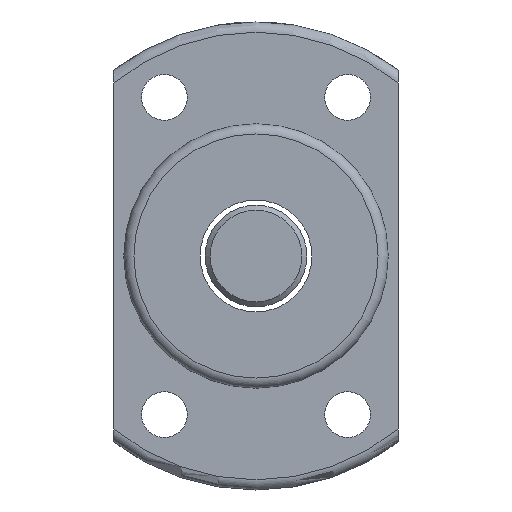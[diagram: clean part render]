
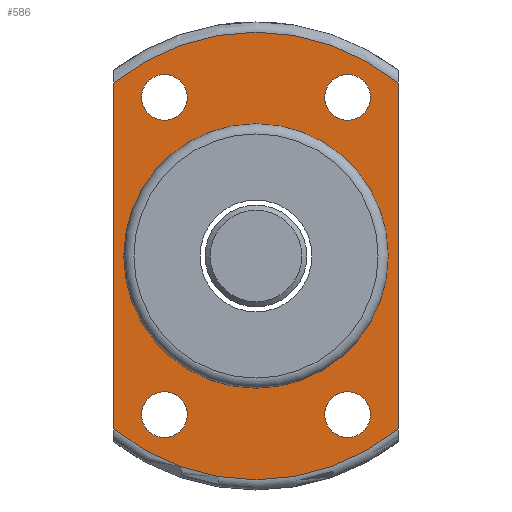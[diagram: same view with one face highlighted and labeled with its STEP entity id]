
A CAD part, left-side view. The second image highlights one B-rep face of the part: STEP entity #586.
In plain terms, the highlighted planar face has unit normal (-1, 0, 0).
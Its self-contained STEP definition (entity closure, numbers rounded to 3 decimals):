
#69=PLANE('',#684);
#93=LINE('',#940,#101);
#95=LINE('',#973,#103);
#101=VECTOR('',#726,1000.);
#103=VECTOR('',#730,1000.);
#188=ORIENTED_EDGE('',*,*,#300,.F.);
#189=ORIENTED_EDGE('',*,*,#259,.T.);
#190=ORIENTED_EDGE('',*,*,#301,.F.);
#191=ORIENTED_EDGE('',*,*,#266,.F.);
#192=ORIENTED_EDGE('',*,*,#273,.T.);
#193=ORIENTED_EDGE('',*,*,#278,.T.);
#194=ORIENTED_EDGE('',*,*,#283,.T.);
#195=ORIENTED_EDGE('',*,*,#288,.T.);
#196=ORIENTED_EDGE('',*,*,#292,.T.);
#259=EDGE_CURVE('',#331,#330,#93,.T.);
#266=EDGE_CURVE('',#335,#336,#95,.T.);
#273=EDGE_CURVE('',#342,#342,#379,.T.);
#278=EDGE_CURVE('',#347,#347,#384,.T.);
#283=EDGE_CURVE('',#352,#352,#389,.T.);
#288=EDGE_CURVE('',#357,#357,#394,.T.);
#292=EDGE_CURVE('',#361,#361,#398,.T.);
#300=EDGE_CURVE('',#331,#335,#406,.T.);
#301=EDGE_CURVE('',#336,#330,#407,.T.);
#330=VERTEX_POINT('',#939);
#331=VERTEX_POINT('',#941);
#335=VERTEX_POINT('',#972);
#336=VERTEX_POINT('',#974);
#342=VERTEX_POINT('',#994);
#347=VERTEX_POINT('',#1007);
#352=VERTEX_POINT('',#1020);
#357=VERTEX_POINT('',#1033);
#361=VERTEX_POINT('',#1044);
#379=CIRCLE('',#641,2.25);
#384=CIRCLE('',#649,2.25);
#389=CIRCLE('',#657,2.25);
#394=CIRCLE('',#665,2.25);
#398=CIRCLE('',#672,13.);
#406=CIRCLE('',#683,22.);
#407=CIRCLE('',#685,22.);
#455=EDGE_LOOP('',(#188,#189,#190,#191));
#456=EDGE_LOOP('',(#192));
#457=EDGE_LOOP('',(#193));
#458=EDGE_LOOP('',(#194));
#459=EDGE_LOOP('',(#195));
#460=EDGE_LOOP('',(#196));
#521=FACE_BOUND('',#455,.T.);
#522=FACE_BOUND('',#456,.T.);
#523=FACE_BOUND('',#457,.T.);
#524=FACE_BOUND('',#458,.T.);
#525=FACE_BOUND('',#459,.T.);
#526=FACE_BOUND('',#460,.T.);
#586=ADVANCED_FACE('',(#521,#522,#523,#524,#525,#526),#69,.F.);
#641=AXIS2_PLACEMENT_3D('',#993,#746,#747);
#649=AXIS2_PLACEMENT_3D('',#1006,#762,#763);
#657=AXIS2_PLACEMENT_3D('',#1019,#778,#779);
#665=AXIS2_PLACEMENT_3D('',#1032,#794,#795);
#672=AXIS2_PLACEMENT_3D('',#1043,#808,#809);
#683=AXIS2_PLACEMENT_3D('',#1056,#830,#831);
#684=AXIS2_PLACEMENT_3D('',#1057,#832,#833);
#685=AXIS2_PLACEMENT_3D('',#1058,#834,#835);
#726=DIRECTION('',(0.,0.,-1.));
#730=DIRECTION('',(0.,0.,-1.));
#746=DIRECTION('',(1.,0.,0.));
#747=DIRECTION('',(0.,0.,-1.));
#762=DIRECTION('',(1.,0.,0.));
#763=DIRECTION('',(0.,0.,-1.));
#778=DIRECTION('',(1.,0.,0.));
#779=DIRECTION('',(0.,0.,-1.));
#794=DIRECTION('',(1.,0.,0.));
#795=DIRECTION('',(0.,0.,-1.));
#808=DIRECTION('',(1.,0.,0.));
#809=DIRECTION('',(0.,0.,-1.));
#830=DIRECTION('',(1.,0.,0.));
#831=DIRECTION('',(0.,0.,-1.));
#832=DIRECTION('',(1.,0.,0.));
#833=DIRECTION('',(0.,0.,-1.));
#834=DIRECTION('',(1.,0.,0.));
#835=DIRECTION('',(0.,0.,-1.));
#939=CARTESIAN_POINT('',(-20.,14.,-16.971));
#940=CARTESIAN_POINT('',(-20.,14.,0.));
#941=CARTESIAN_POINT('',(-20.,14.,16.971));
#972=CARTESIAN_POINT('',(-20.,-14.,16.971));
#973=CARTESIAN_POINT('',(-20.,-14.,0.));
#974=CARTESIAN_POINT('',(-20.,-14.,-16.971));
#993=CARTESIAN_POINT('',(-20.,9.,-15.59));
#994=CARTESIAN_POINT('',(-20.,9.,-17.84));
#1006=CARTESIAN_POINT('',(-20.,-9.,-15.59));
#1007=CARTESIAN_POINT('',(-20.,-9.,-17.84));
#1019=CARTESIAN_POINT('',(-20.,-9.,15.59));
#1020=CARTESIAN_POINT('',(-20.,-9.,13.34));
#1032=CARTESIAN_POINT('',(-20.,9.,15.59));
#1033=CARTESIAN_POINT('',(-20.,9.,13.34));
#1043=CARTESIAN_POINT('',(-20.,0.,0.));
#1044=CARTESIAN_POINT('',(-20.,0.,-13.));
#1056=CARTESIAN_POINT('',(-20.,0.,0.));
#1057=CARTESIAN_POINT('',(-20.,17.5,0.));
#1058=CARTESIAN_POINT('',(-20.,0.,0.));
